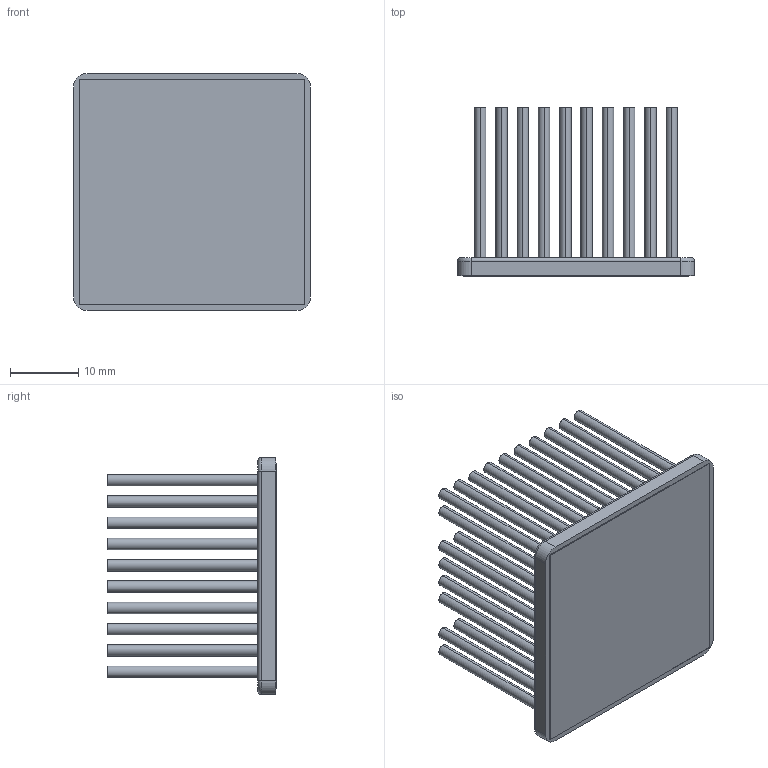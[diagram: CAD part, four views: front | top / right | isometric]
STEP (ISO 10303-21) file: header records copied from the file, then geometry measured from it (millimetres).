
FILE_DESCRIPTION (( 'STEP AP214' ), '1' );
FILE_NAME ('INM35002-25P-2.6.STEP', '2023-02-20T23:59:52', ( '' ), ( '' ), 'SwSTEP 2.0', 'SolidWorks 2020', '' );
FILE_SCHEMA (( 'AUTOMOTIVE_DESIGN' ));
Length unit declared in the file: inch
Products named in the file (1): INM35002-25P-2.6
Bounding box: 34.7 x 24.73 x 34.7 mm (x, y, z)
Volume: 7685.9 mm3; surface area: 15537.2 mm2
Topology: 2 solids, 2 shells, 300 faces, 604 edges, 400 vertices
Faces by surface type: cylinder 192, plane 104, torus 4
Entity records: 11963 total; most frequent: DIRECTION 1594, CARTESIAN_POINT 1305, ORIENTED_EDGE 1208, AXIS2_PLACEMENT_3D 689, EDGE_CURVE 604, VERTEX_POINT 400, EDGE_LOOP 392, CIRCLE 388
